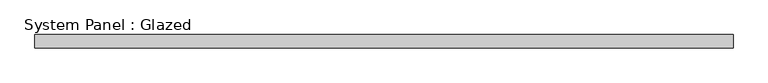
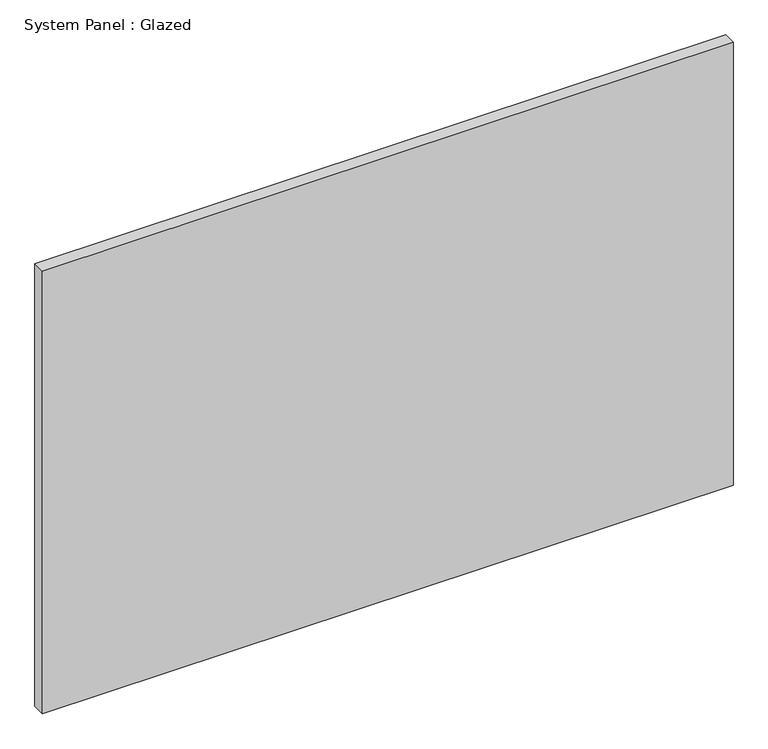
"""IFC4 building model written with IfcOpenShell, lengths in millimetres: plate geometry, System Panel : Glazed."""

from ifc_helpers import new_model, si_unit, origin, origin_with_axes, place, context, project, spatial, polyline, outline, extrude, source, transform, mapped, element, save


def system_panel_glazed_a769a047(model_context):
    return source(origin(), model_context, "Body", "SweptSolid", [
        extrude(outline(polyline([(674.4738159, 19.05), (-674.4738159, 19.05), (-674.4738159, 44.45), (674.4738159, 44.45), (674.4738159, 19.05)])), origin_with_axes(), (0.0, 0.0, 1.0), 914.4),
    ])


if __name__ == "__main__":
    model = new_model("IFC4")
    model_context = context("Model", 3, world=origin())
    ifc_project = project(units=[si_unit("LENGTHUNIT", "METRE", prefix="MILLI")], contexts=[model_context])
    site = spatial("IfcSite", under=ifc_project)
    building = spatial("IfcBuilding", under=site)
    placement = place(None, origin())
    system_panel_glazed_shape = system_panel_glazed_a769a047(model_context)
    element("IfcPlate", 1, ObjectType="System Panel : Glazed", at=placement, inside=building, context=model_context, shape_type="MappedRepresentation", body=[
        mapped(system_panel_glazed_shape, transform((0.0, 0.0, 0.0), x_axis=(1.0, 0.0, 0.0), y_axis=(0.0, 1.0, 0.0), z_axis=(0.0, 0.0, 1.0))),
    ])
    save(model, "model.ifc")
